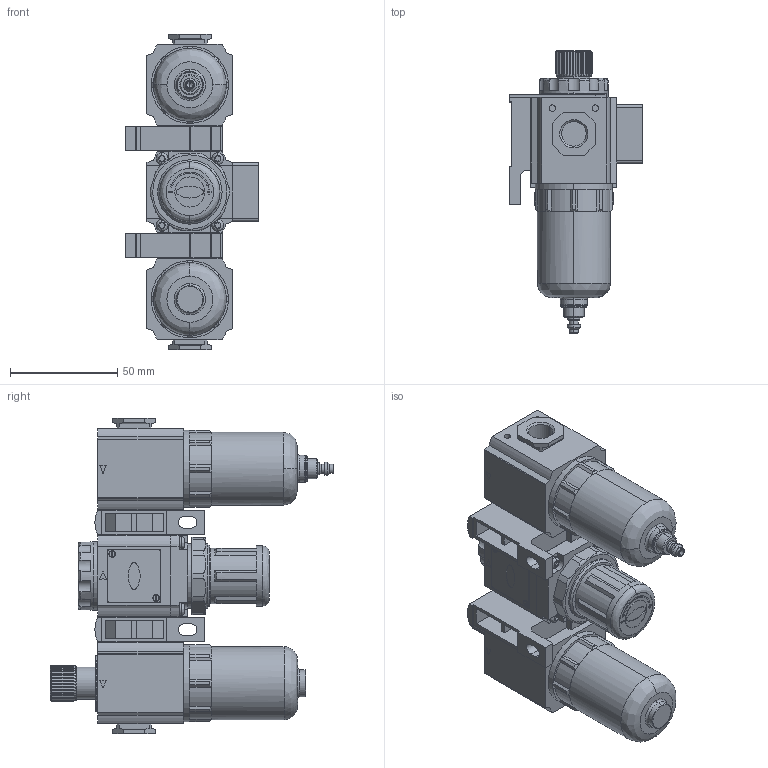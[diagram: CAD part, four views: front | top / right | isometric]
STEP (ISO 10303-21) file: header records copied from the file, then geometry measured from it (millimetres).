
FILE_DESCRIPTION (( 'STEP AP214' ), '1' );
FILE_NAME ('GC-200-08-F1.STEP', '2016-01-22T14:57:39', ( '' ), ( '' ), 'SwSTEP 2.0', 'SolidWorks 2016', '' );
FILE_SCHEMA (( 'AUTOMOTIVE_DESIGN' ));
Length unit declared in the file: millimetre
Products named in the file (29): 24; 7; 1; 16; 14; 8; 13; GC-200-08-F1; 9; 15; 11; 20; 18; 19; 12; 3; 10; 23; 2; 4; 27; 22; 26; 28; 21; 6; 17; 5; 25
Assembly tree (28 placements, depth 2):
  GC-200-08-F1
    1
    2
    3
    4
    5
    6
    7
    8
    9
    10
    11
    12
    13
    14
    15
    16
    17
    18
    19
    20
    21
    22
    23
    24
    25
    26
    27
    28
Bounding box: 62 x 132 x 147 mm (x, y, z)
Volume: 284143.8 mm3; surface area: 103880 mm2
Topology: 28 solids, 28 shells, 1705 faces, 4327 edges, 2836 vertices
Faces by surface type: plane 1012, cylinder 499, cone 109, bspline 85
Entity records: 74719 total; most frequent: CARTESIAN_POINT 13300, ORIENTED_EDGE 8648, DIRECTION 8604, EDGE_CURVE 4324, AXIS2_PLACEMENT_3D 2975, VERTEX_POINT 2836, VECTOR 2654, LINE 2654
